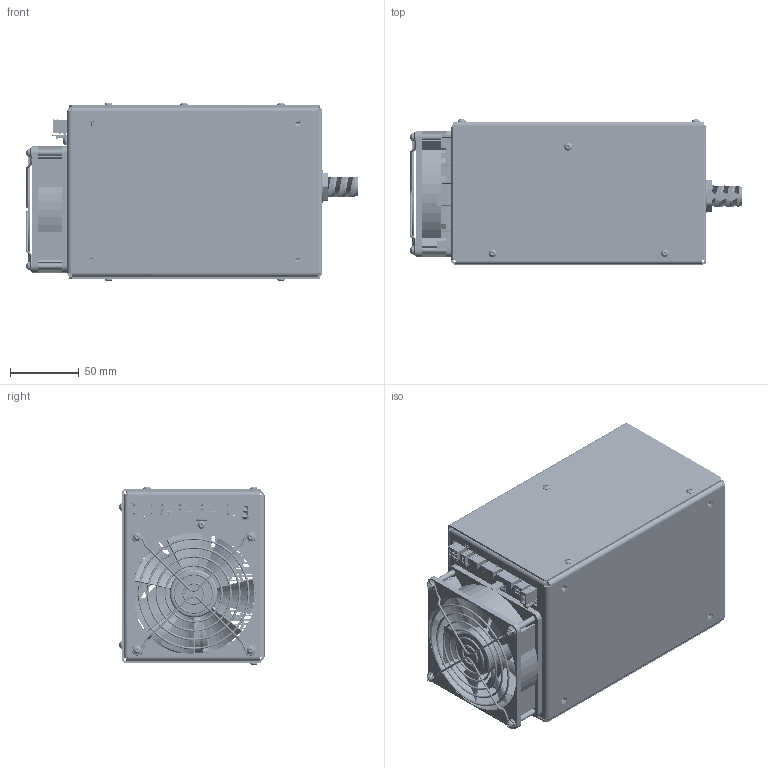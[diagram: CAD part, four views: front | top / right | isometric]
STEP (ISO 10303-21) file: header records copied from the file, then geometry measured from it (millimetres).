
FILE_DESCRIPTION (( 'STEP AP214' ), '1' );
FILE_NAME ('416.00.00.000-I01_RFPS-800.STEP', '2025-01-25T15:31:47', ( '' ), ( '' ), 'SwSTEP 2.0', 'SolidWorks 2018', '' );
FILE_SCHEMA (( 'AUTOMOTIVE_DESIGN' ));
Length unit declared in the file: millimetre
Products named in the file (41): 416.00.01.000-D01_Êîðïóñ â ñáîðå; KC304000-NJ247.05NX Ïîäëîæêà êåðàìè÷åñêàÿ; Ãàéêà CN clinch nut M4 (2018); 416.00.02.001-F01_冓儰僗闉; 416.00.02.102-E01_砑鳧罻; 416.00.00.003-B01_扻錪犩; RFGenInterface3Gen RevC_Ïëàòà â ñáîðå; 416.00.00.004-A01_ﾘ琺矜; RFPS Power Switch Rev.B Ïëàòà â ñáîðå; 妈眚 󉱲 ISO7380 (2018); 416.00.02.000-H01_Áëîê ýëåêòðîííûé; 416.00.02.006-A01_NTC Clamp; 栺鍣罻 PCHSN-6; Âòóëêà ðåçüá. íåïîëíîïðîõ. BSO-M3-25 ZI; Ãàéêà Amphenol 172-HEXNUT; 妈眚 󉱭0 ISO7380; Ãàéêà Ì3 DIN934; 416.00.02.005-A01_Hex Stand M3 RFPS; 416.00.02.100-G01_Ïëàòà â ñáîðå; ﾘ琺矜 ﾌ3 DIN127 (2018); 416.00.01.001-C01_扻豵鵨; 妈眚 󉱯0 DIN912; 416.00.02.002-B01_鎗鵻罻; RFPS 0.8kW Rev.C; 栺鍣罻 PCHSS-10; Ãàéêà CN clinch nut M3 (2018); 抔樦憵 42117 Faston .250 (6,35mm); ﾘ琺矜 ﾌ3 DIN125 (2018); 416.00.00.001-B01_Êðûøêà_-00; Ðåøåòêà FG-09; 416.00.02.101-B01_栺鍣罻; UJ3N065025K3S JFET; 416.00.02.102-D01_砑鳧罻; 妈眚 󉱭2 DIN912; 416.00.00.002-D01_Ýêðàí; TG-A38KX 12õ16õ1.5ìì Ïðîêëàäêà; 妈眚 󉱲 DIN7991; 178.ÑÊ.001.B_Ñáîðêà êàáåëüíàÿ RFPS-800 Fan (ext.); RFGenInterface3Gen RevC Actual Base Variant DocRev1.0; 416.00.00.000-I01_RFPS-800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
Assembly tree (140 placements, depth 4):
  416.00.00.000-I01_RFPS-800
    416.00.01.000-D01_Êîðïóñ â ñáîðå
      416.00.01.001-C01_扻豵鵨
      Âòóëêà ðåçüá. íåïîëíîïðîõ. BSO-M3-25 ZI  x4
      178.ÑÊ.001.B_Ñáîðêà êàáåëüíàÿ RFPS-800 Fan (ext.)
      Ðåøåòêà FG-09
      抔樦憵 42117 Faston .250 (6,35mm)
      ﾘ琺矜 ﾌ3 DIN125 (2018)  x4
      ﾘ琺矜 ﾌ3 DIN127 (2018)  x5
      妈眚 󉱭0 ISO7380  x4
      Ãàéêà CN clinch nut M3 (2018)  x10
      Ãàéêà CN clinch nut M4 (2018)  x4
      妈眚 󉱲 ISO7380 (2018)
    416.00.02.000-H01_Áëîê ýëåêòðîííûé
      416.00.02.001-F01_冓儰僗闉
      416.00.02.002-B01_鎗鵻罻  x4
      416.00.02.100-G01_Ïëàòà â ñáîðå
        RFPS 0.8kW Rev.C
        416.00.02.101-B01_栺鍣罻
        416.00.02.102-E01_砑鳧罻
        416.00.02.102-D01_砑鳧罻
        妈眚 󉱲 ISO7380 (2018)  x8
        妈眚 󉱯0 DIN912  x2
        ﾘ琺矜 ﾌ3 DIN125 (2018)  x4
        ﾘ琺矜 ﾌ3 DIN127 (2018)  x2
        Ãàéêà Ì3 DIN934  x2
        416.00.02.006-A01_NTC Clamp
      ﾘ琺矜 ﾌ3 DIN125 (2018)  x7
      ﾘ琺矜 ﾌ3 DIN127 (2018)  x7
      妈眚 󉱭2 DIN912  x5
      ﾘ琺矜 ﾌ3 BOSSARD 1404830  x4
      Ãàéêà Ì3 DIN934  x2
      KC304000-NJ247.05NX Ïîäëîæêà êåðàìè÷åñêàÿ
      RFPS Power Switch Rev.B Ïëàòà â ñáîðå
      416.00.02.005-A01_Hex Stand M3 RFPS  x2
      TG-A38KX 12õ16õ1.5ìì Ïðîêëàäêà
      UJ3N065025K3S JFET
    416.00.00.001-B01_Êðûøêà_-00
    416.00.00.002-D01_Ýêðàí
    416.00.00.003-B01_扻錪犩
    416.00.00.004-A01_ﾘ琺矜
    妈眚 󉱲 ISO7380 (2018)  x13
    妈眚 󉱲 DIN7991  x10
    ﾘ琺矜 ﾌ3 DIN127 (2018)  x4
    Ãàéêà Amphenol 172-HEXNUT
    RFGenInterface3Gen RevC_Ïëàòà â ñáîðå
      RFGenInterface3Gen RevC Actual Base Variant DocRev1.0
      栺鍣罻 PCHSN-6  x4
      栺鍣罻 PCHSS-10  x4
Bounding box: 241.78 x 105.65 x 130.3 mm (x, y, z)
Volume: 604498.6 mm3; surface area: 776107.1 mm2
Topology: 142 solids, 2262 shells, 14914 faces, 50638 edges, 37640 vertices
Faces by surface type: plane 9561, cylinder 4290, cone 499, bspline 312, torus 176, sphere 76
Entity records: 598494 total; most frequent: CARTESIAN_POINT 113712, DIRECTION 74449, ORIENTED_EDGE 65758, EDGE_CURVE 44369, VERTEX_POINT 33779, VECTOR 33625, LINE 33625, AXIS2_PLACEMENT_3D 20412
